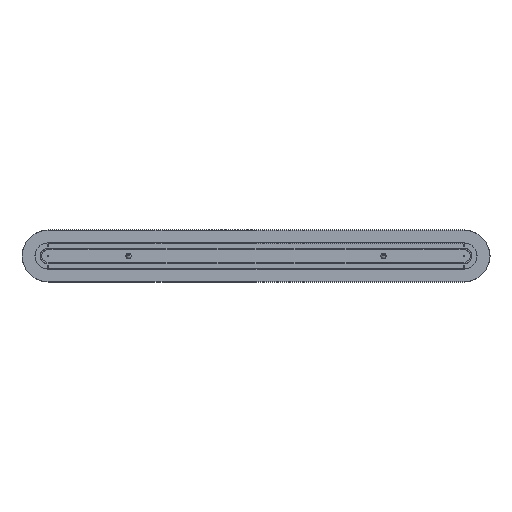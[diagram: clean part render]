
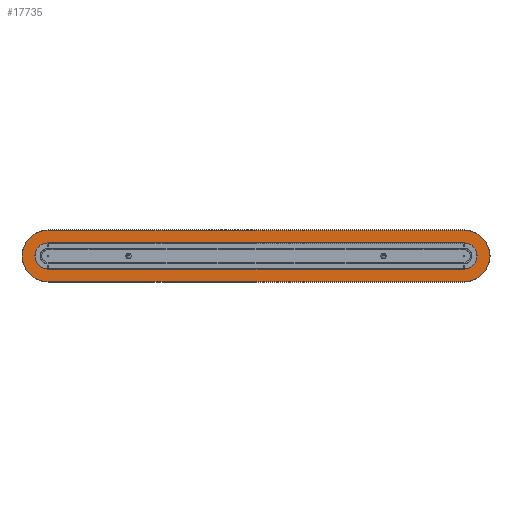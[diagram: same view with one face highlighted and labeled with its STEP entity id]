
A CAD part, top view. The second image highlights one B-rep face of the part: STEP entity #17735.
In plain terms, the highlighted planar face has unit normal (0, 0, 1).
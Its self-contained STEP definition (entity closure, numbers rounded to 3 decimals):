
#17640=CARTESIAN_POINT('',(12622.59,-2434.77,19.));
#17641=DIRECTION('',(0.,0.,1.));
#17642=DIRECTION('',(1.,0.,0.));
#17643=AXIS2_PLACEMENT_3D('',#17640,#17641,#17642);
#17644=PLANE('',#17643);
#17645=CARTESIAN_POINT('',(13597.061,-4179.907,19.));
#17646=VERTEX_POINT('',#17645);
#17647=CARTESIAN_POINT('',(13597.061,-4080.107,19.));
#17648=VERTEX_POINT('',#17647);
#17649=CARTESIAN_POINT('',(13597.061,-4130.007,19.));
#17650=DIRECTION('',(0.,0.,1.));
#17651=DIRECTION('',(1.,0.,-0.));
#17652=AXIS2_PLACEMENT_3D('',#17649,#17650,#17651);
#17653=CIRCLE('',#17652,49.9);
#17654=EDGE_CURVE('',#17646,#17648,#17653,.T.);
#17655=ORIENTED_EDGE('',*,*,#17654,.T.);
#17656=CARTESIAN_POINT('',(12797.061,-4080.107,19.));
#17657=VERTEX_POINT('',#17656);
#17658=CARTESIAN_POINT('',(13597.061,-4080.107,19.));
#17659=DIRECTION('',(-1.,0.,0.));
#17660=VECTOR('',#17659,800.);
#17661=LINE('',#17658,#17660);
#17662=EDGE_CURVE('',#17648,#17657,#17661,.T.);
#17663=ORIENTED_EDGE('',*,*,#17662,.T.);
#17664=CARTESIAN_POINT('',(12747.161,-4130.007,19.));
#17665=VERTEX_POINT('',#17664);
#17666=CARTESIAN_POINT('',(12797.061,-4130.007,19.));
#17667=DIRECTION('',(0.,0.,1.));
#17668=DIRECTION('',(1.,0.,-0.));
#17669=AXIS2_PLACEMENT_3D('',#17666,#17667,#17668);
#17670=CIRCLE('',#17669,49.9);
#17671=EDGE_CURVE('',#17657,#17665,#17670,.T.);
#17672=ORIENTED_EDGE('',*,*,#17671,.T.);
#17673=CARTESIAN_POINT('',(12797.061,-4179.907,19.));
#17674=VERTEX_POINT('',#17673);
#17675=CARTESIAN_POINT('',(12797.061,-4130.007,19.));
#17676=DIRECTION('',(0.,0.,1.));
#17677=DIRECTION('',(1.,0.,-0.));
#17678=AXIS2_PLACEMENT_3D('',#17675,#17676,#17677);
#17679=CIRCLE('',#17678,49.9);
#17680=EDGE_CURVE('',#17665,#17674,#17679,.T.);
#17681=ORIENTED_EDGE('',*,*,#17680,.T.);
#17682=CARTESIAN_POINT('',(12797.061,-4179.907,19.));
#17683=DIRECTION('',(1.,0.,-0.));
#17684=VECTOR('',#17683,800.);
#17685=LINE('',#17682,#17684);
#17686=EDGE_CURVE('',#17674,#17646,#17685,.T.);
#17687=ORIENTED_EDGE('',*,*,#17686,.T.);
#17688=EDGE_LOOP('',(#17655,#17663,#17672,#17681,#17687));
#17689=FACE_BOUND('',#17688,.T.);
#17690=CARTESIAN_POINT('',(12797.061,-4155.107,19.));
#17691=VERTEX_POINT('',#17690);
#17692=CARTESIAN_POINT('',(12797.061,-4104.907,19.));
#17693=VERTEX_POINT('',#17692);
#17694=CARTESIAN_POINT('',(12797.061,-4130.007,19.));
#17695=DIRECTION('',(-0.,-0.,-1.));
#17696=DIRECTION('',(1.,0.,-0.));
#17697=AXIS2_PLACEMENT_3D('',#17694,#17695,#17696);
#17698=CIRCLE('',#17697,25.1);
#17699=EDGE_CURVE('',#17691,#17693,#17698,.T.);
#17700=ORIENTED_EDGE('',*,*,#17699,.T.);
#17701=CARTESIAN_POINT('',(13597.061,-4104.907,19.));
#17702=VERTEX_POINT('',#17701);
#17703=CARTESIAN_POINT('',(12797.061,-4104.907,19.));
#17704=DIRECTION('',(1.,-0.,0.));
#17705=VECTOR('',#17704,800.);
#17706=LINE('',#17703,#17705);
#17707=EDGE_CURVE('',#17693,#17702,#17706,.T.);
#17708=ORIENTED_EDGE('',*,*,#17707,.T.);
#17709=CARTESIAN_POINT('',(13622.161,-4130.007,19.));
#17710=VERTEX_POINT('',#17709);
#17711=CARTESIAN_POINT('',(13597.061,-4130.007,19.));
#17712=DIRECTION('',(-0.,-0.,-1.));
#17713=DIRECTION('',(1.,0.,-0.));
#17714=AXIS2_PLACEMENT_3D('',#17711,#17712,#17713);
#17715=CIRCLE('',#17714,25.1);
#17716=EDGE_CURVE('',#17702,#17710,#17715,.T.);
#17717=ORIENTED_EDGE('',*,*,#17716,.T.);
#17718=CARTESIAN_POINT('',(13597.061,-4155.107,19.));
#17719=VERTEX_POINT('',#17718);
#17720=CARTESIAN_POINT('',(13597.061,-4130.007,19.));
#17721=DIRECTION('',(-0.,-0.,-1.));
#17722=DIRECTION('',(1.,0.,-0.));
#17723=AXIS2_PLACEMENT_3D('',#17720,#17721,#17722);
#17724=CIRCLE('',#17723,25.1);
#17725=EDGE_CURVE('',#17710,#17719,#17724,.T.);
#17726=ORIENTED_EDGE('',*,*,#17725,.T.);
#17727=CARTESIAN_POINT('',(13597.061,-4155.107,19.));
#17728=DIRECTION('',(-1.,0.,0.));
#17729=VECTOR('',#17728,800.);
#17730=LINE('',#17727,#17729);
#17731=EDGE_CURVE('',#17719,#17691,#17730,.T.);
#17732=ORIENTED_EDGE('',*,*,#17731,.T.);
#17733=EDGE_LOOP('',(#17700,#17708,#17717,#17726,#17732));
#17734=FACE_BOUND('',#17733,.T.);
#17735=ADVANCED_FACE('',(#17689,#17734),#17644,.T.);
